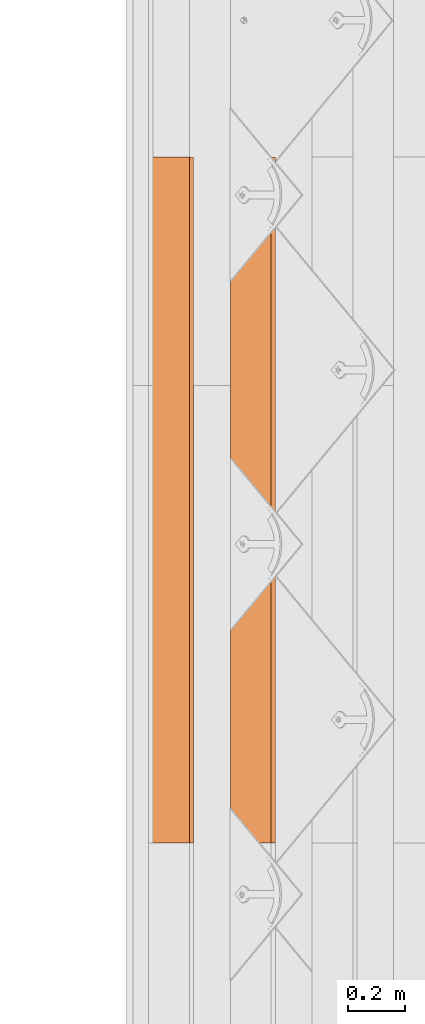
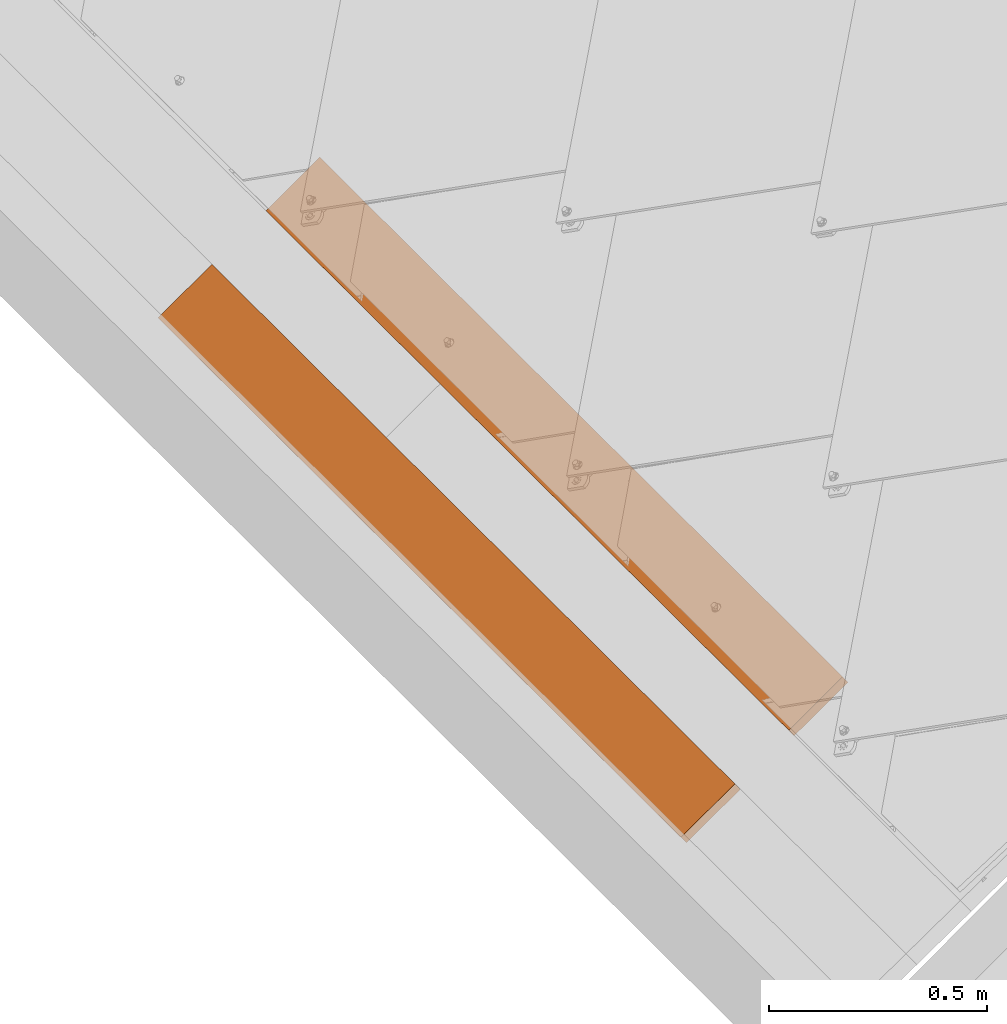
# One storey, part 20 of 151: 2 proxies, 1 element without a shape of its own.
"""IFC2X3 building model written with IfcOpenShell, lengths in millimetres."""

from ifc_helpers import new_model, entity, si_unit, converted_unit, derived_unit, direction, frame, frame_2d, origin, place, context, subcontext, project, spatial, rectangle, extrude, source, transform, mapped, material, type_object, type_shapes, element, aggregate, save


model = new_model("IFC2X3")

# Units and contexts
model_context = context("Model", 3, precision=0.01, world=origin(), true_north=direction((6.12303176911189e-17, 1.0)))
body_context = subcontext(model_context, "Body", "Model", "MODEL_VIEW")
ifc_project = project(units=[si_unit("LENGTHUNIT", "METRE", prefix="MILLI"), si_unit("AREAUNIT", "SQUARE_METRE"), si_unit("VOLUMEUNIT", "CUBIC_METRE"), converted_unit("PLANEANGLEUNIT", "DEGREE", entity("IfcRatioMeasure", 0.0174532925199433), si_unit("PLANEANGLEUNIT", "RADIAN"), dimensions=[0, 0, 0, 0, 0, 0, 0]), si_unit("MASSUNIT", "GRAM", prefix="KILO"), derived_unit("MASSDENSITYUNIT", [(si_unit("MASSUNIT", "GRAM", prefix="KILO"), 1), (si_unit("LENGTHUNIT", "METRE"), -3)]), si_unit("TIMEUNIT", "SECOND"), si_unit("FREQUENCYUNIT", "HERTZ"), si_unit("THERMODYNAMICTEMPERATUREUNIT", "DEGREE_CELSIUS"), derived_unit("THERMALTRANSMITTANCEUNIT", [(si_unit("MASSUNIT", "GRAM", prefix="KILO"), 1), (si_unit("THERMODYNAMICTEMPERATUREUNIT", "KELVIN"), -1), (si_unit("TIMEUNIT", "SECOND"), -3)]), derived_unit("VOLUMETRICFLOWRATEUNIT", [(si_unit("LENGTHUNIT", "METRE"), 3), (si_unit("TIMEUNIT", "SECOND"), -1)]), si_unit("ELECTRICCURRENTUNIT", "AMPERE"), si_unit("ELECTRICVOLTAGEUNIT", "VOLT"), si_unit("POWERUNIT", "WATT"), si_unit("FORCEUNIT", "NEWTON", prefix="KILO"), si_unit("ILLUMINANCEUNIT", "LUX"), si_unit("LUMINOUSFLUXUNIT", "LUMEN"), si_unit("LUMINOUSINTENSITYUNIT", "CANDELA"), derived_unit("USERDEFINED", [(si_unit("MASSUNIT", "GRAM", prefix="KILO"), -1), (si_unit("LENGTHUNIT", "METRE"), -2), (si_unit("TIMEUNIT", "SECOND"), 3), (si_unit("LUMINOUSFLUXUNIT", "LUMEN"), 1)]), derived_unit("LINEARVELOCITYUNIT", [(si_unit("LENGTHUNIT", "METRE"), 1), (si_unit("TIMEUNIT", "SECOND"), -1)]), si_unit("PRESSUREUNIT", "PASCAL"), derived_unit("USERDEFINED", [(si_unit("LENGTHUNIT", "METRE"), -2), (si_unit("MASSUNIT", "GRAM", prefix="KILO"), 1), (si_unit("TIMEUNIT", "SECOND"), -2)])], contexts=[model_context])

# Site, building, storey
site_placement = place(None, origin())
site = spatial("IfcSite", under=ifc_project, at=site_placement, Name="Default", CompositionType="ELEMENT")
building_placement = place(site_placement, origin())
building = spatial("IfcBuilding", under=site, at=building_placement, CompositionType="ELEMENT")
storey_placement = place(building_placement, origin())
storey = spatial("IfcBuildingStorey", under=building, at=storey_placement, Name="Level 1", CompositionType="ELEMENT", Elevation=0.0)

# Assembly, proxies
assembly_placement = place(storey_placement, origin())
assembly = element("IfcElementAssembly", 1, at=assembly_placement, inside=storey, Name="Structural Framing Assembly:Roof Construction Assembly", ObjectType="Structural Framing Assembly:Roof Construction Assembly", AssemblyPlace="NOTDEFINED", PredefinedType="USERDEFINED")
ifc_material = material(Name="Wood - Generic - Wood For Showcase")
building_element_proxy_type_1 = type_object("IfcBuildingElementProxyType", Name="Structural Framing 15", PredefinedType="NOTDEFINED", material=ifc_material)
shared_shape_1 = source(origin(), body_context, "Body", "SweptSolid", [
    extrude(rectangle(XDim=24.9999999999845, YDim=174.344679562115, at=frame_2d((-1.77635683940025e-13, -4.54747350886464e-13), x_axis=(0.0, 1.0))), frame((1128.20180147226, 1525.55080214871, 2760.23940055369), z_axis=(0.0, 1.0, 0.0), x_axis=(-0.819152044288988, 0.0, -0.573576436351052)), (0.0, 0.0, 1.0), 2400.0),
])
type_shapes(building_element_proxy_type_1, [shared_shape_1])
proxy_1_placement = place(assembly_placement, frame((-3370.06734507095, -7270.0, -2400.0)))
proxy_1 = element("IfcBuildingElementProxy", 2, at=proxy_1_placement, type_object=building_element_proxy_type_1, material=ifc_material, Name="Structural Framing 138:Structural Framing 15", ObjectType="Structural Framing 138:Structural Framing 15", context=body_context, shape_type="MappedRepresentation", body=[
    mapped(shared_shape_1, transform((0.0, 0.0, 0.0), scale=1.0)),
])
building_element_proxy_type_2 = type_object("IfcBuildingElementProxyType", Name="Structural Framing 15", PredefinedType="NOTDEFINED", material=ifc_material)
shared_shape_2 = source(origin(), body_context, "Body", "SweptSolid", [
    extrude(rectangle(XDim=24.9999999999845, YDim=174.344679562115, at=frame_2d((-1.77635683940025e-13, -4.54747350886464e-13), x_axis=(0.0, 1.0))), frame((1128.20180147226, 1525.55080214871, 2760.23940055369), z_axis=(0.0, 1.0, 0.0), x_axis=(-0.819152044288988, 0.0, -0.573576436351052)), (0.0, 0.0, 1.0), 2400.0),
])
type_shapes(building_element_proxy_type_2, [shared_shape_2])
proxy_2_placement = place(assembly_placement, frame((-3655.6969464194, -7270.0, -2600.0)))
proxy_2 = element("IfcBuildingElementProxy", 3, at=proxy_2_placement, type_object=building_element_proxy_type_2, material=ifc_material, Name="Structural Framing 148:Structural Framing 15", ObjectType="Structural Framing 148:Structural Framing 15", context=body_context, shape_type="MappedRepresentation", body=[
    mapped(shared_shape_2, transform((0.0, 0.0, 0.0), scale=1.0)),
])
aggregate(assembly, [proxy_1, proxy_2])

save(model, "model.ifc")
